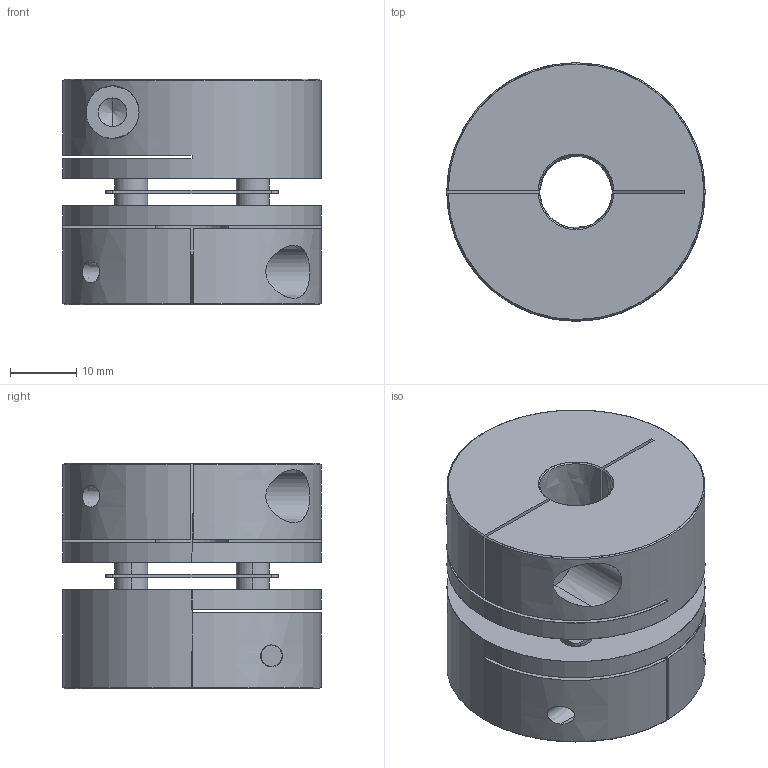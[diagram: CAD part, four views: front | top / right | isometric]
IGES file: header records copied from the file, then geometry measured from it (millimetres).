
Start section: SolidWorks IGES file using analytic representation for surfaces
Bounding box: 39 x 39 x 34.1 mm (x, y, z)
Surface area: 13874.3 mm2 (no closed solid volume)
Topology: 0 solids, 0 shells, 91 faces, 2013 edges, 2009 vertices
Faces by surface type: revolution 59, bspline 32
